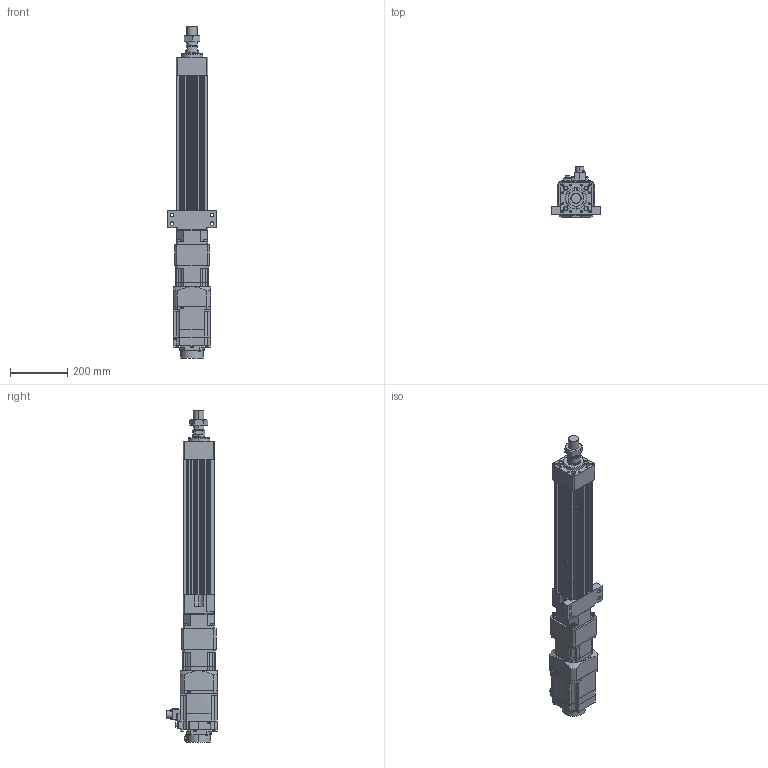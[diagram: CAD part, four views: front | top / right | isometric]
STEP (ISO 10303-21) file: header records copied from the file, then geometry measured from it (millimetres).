
FILE_DESCRIPTION (( 'STEP AP203' ), '1' );
FILE_NAME ('HES110NS(HS)-S300-W015G00-M-FFC.STEP', '2026-06-10T06:02:53', ( 'tms' ), ( '' ), 'SwSTEP 2.0', 'SolidWorks 2013', '' );
FILE_SCHEMA (( 'CONFIG_CONTROL_DESIGN' ));
Length unit declared in the file: millimetre
Products named in the file (8): HG-SR152B; AB1151; M36X1.5P; AB1152; HES110NS(HS)-S300-W015G00-M-FFC; HES110-M-ROD-300; HES110-S-G120; HES110-FFC-300
Assembly tree (7 placements, depth 2):
  HES110NS(HS)-S300-W015G00-M-FFC
    HES110-FFC-300
    HES110-M-ROD-300
    M36X1.5P
    HES110-S-G120
    AB1151
    AB1152
    HG-SR152B
Bounding box: 170 x 177.49 x 1156 mm (x, y, z)
Volume: 7831111.6 mm3; surface area: 1019646.7 mm2
Topology: 5 solids, 12 shells, 1233 faces, 3122 edges, 2017 vertices
Faces by surface type: cylinder 570, plane 555, cone 94, bspline 10, torus 4
Entity records: 38913 total; most frequent: CARTESIAN_POINT 7463, DIRECTION 6733, ORIENTED_EDGE 6168, EDGE_CURVE 3094, AXIS2_PLACEMENT_3D 2500, VERTEX_POINT 2017, LINE 1733, VECTOR 1733
